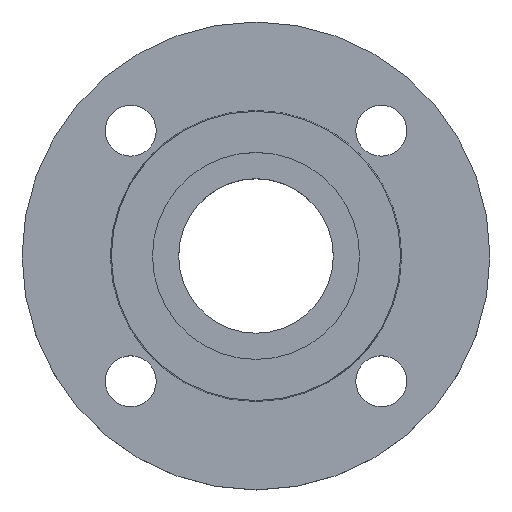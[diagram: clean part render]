
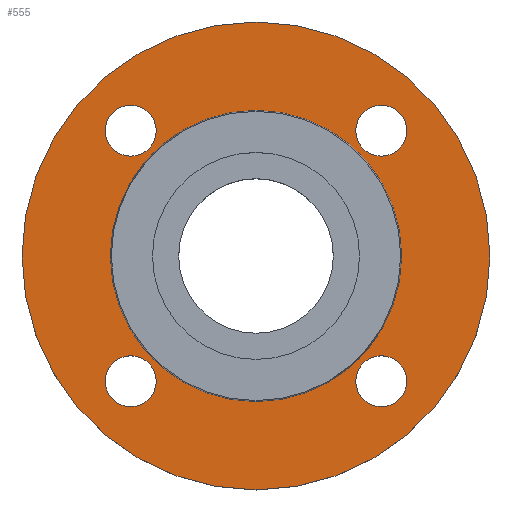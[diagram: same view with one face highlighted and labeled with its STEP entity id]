
A CAD part, top view. The second image highlights one B-rep face of the part: STEP entity #555.
In plain terms, the highlighted planar face has unit normal (0, 0, 1).
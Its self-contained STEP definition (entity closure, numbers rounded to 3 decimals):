
#15 = EDGE_CURVE ( 'NONE', #719, #695, #579, .T. ) ;
#18 = DIRECTION ( 'NONE',  ( -1., 0., 0. ) ) ;
#19 = DIRECTION ( 'NONE',  ( 0., 0., -1. ) ) ;
#20 = CARTESIAN_POINT ( 'NONE',  ( 0., 0., -2. ) ) ;
#29 = EDGE_CURVE ( 'NONE', #744, #854, #519, .T. ) ;
#35 = AXIS2_PLACEMENT_3D ( 'NONE', #572, #571, #568 ) ;
#36 = CIRCLE ( 'NONE', #35, 82.5 ) ;
#45 = DIRECTION ( 'NONE',  ( 0., 0., -1. ) ) ;
#53 = CIRCLE ( 'NONE', #542, 9. ) ;
#58 = CARTESIAN_POINT ( 'NONE',  ( -82.5, 0., -2. ) ) ;
#62 = CARTESIAN_POINT ( 'NONE',  ( 53.194, -44.194, -2. ) ) ;
#72 = CARTESIAN_POINT ( 'NONE',  ( -35.194, 44.194, -2. ) ) ;
#75 = EDGE_CURVE ( 'NONE', #695, #719, #53, .T. ) ;
#96 = DIRECTION ( 'NONE',  ( 1., 0., 0. ) ) ;
#97 = DIRECTION ( 'NONE',  ( 0., 0., 1. ) ) ;
#100 = CARTESIAN_POINT ( 'NONE',  ( 51.353, 0., -2. ) ) ;
#102 = PLANE ( 'NONE',  #286 ) ;
#104 = CARTESIAN_POINT ( 'NONE',  ( -53.194, 44.194, -2. ) ) ;
#107 = FACE_OUTER_BOUND ( 'NONE', #675, .T. ) ;
#108 = FACE_BOUND ( 'NONE', #704, .T. ) ;
#109 = CARTESIAN_POINT ( 'NONE',  ( 44.194, -44.194, -2. ) ) ;
#110 = DIRECTION ( 'NONE',  ( 0., 0., -1. ) ) ;
#111 = FACE_BOUND ( 'NONE', #703, .T. ) ;
#112 = DIRECTION ( 'NONE',  ( 1., 0., 0. ) ) ;
#116 = FACE_BOUND ( 'NONE', #700, .T. ) ;
#118 = FACE_BOUND ( 'NONE', #696, .T. ) ;
#119 = FACE_BOUND ( 'NONE', #671, .T. ) ;
#128 = AXIS2_PLACEMENT_3D ( 'NONE', #582, #580, #576 ) ;
#154 = EDGE_CURVE ( 'NONE', #746, #678, #184, .T. ) ;
#170 = EDGE_CURVE ( 'NONE', #827, #747, #171, .T. ) ;
#171 = CIRCLE ( 'NONE', #128, 9. ) ;
#175 = VERTEX_POINT ( 'NONE', #574 ) ;
#177 = EDGE_CURVE ( 'NONE', #678, #746, #36, .T. ) ;
#184 = CIRCLE ( 'NONE', #185, 82.5 ) ;
#185 = AXIS2_PLACEMENT_3D ( 'NONE', #605, #604, #600 ) ;
#218 = DIRECTION ( 'NONE',  ( 1., 0., 0. ) ) ;
#221 = DIRECTION ( 'NONE',  ( 0., 0., -1. ) ) ;
#225 = CARTESIAN_POINT ( 'NONE',  ( -44.194, -44.194, -2. ) ) ;
#248 = AXIS2_PLACEMENT_3D ( 'NONE', #109, #110, #112 ) ;
#249 = EDGE_CURVE ( 'NONE', #683, #667, #506, .T. ) ;
#254 = CIRCLE ( 'NONE', #277, 9. ) ;
#271 = AXIS2_PLACEMENT_3D ( 'NONE', #878, #45, #877 ) ;
#277 = AXIS2_PLACEMENT_3D ( 'NONE', #225, #221, #218 ) ;
#286 = AXIS2_PLACEMENT_3D ( 'NONE', #100, #97, #96 ) ;
#313 = CARTESIAN_POINT ( 'NONE',  ( 51.353, 0., -2. ) ) ;
#318 = CIRCLE ( 'NONE', #471, 51.353 ) ;
#322 = CIRCLE ( 'NONE', #271, 9. ) ;
#325 = CARTESIAN_POINT ( 'NONE',  ( 82.5, 0., -2. ) ) ;
#335 = CIRCLE ( 'NONE', #372, 9. ) ;
#338 = CARTESIAN_POINT ( 'NONE',  ( 53.194, 44.194, -2. ) ) ;
#343 = CIRCLE ( 'NONE', #248, 9. ) ;
#351 = CARTESIAN_POINT ( 'NONE',  ( 44.194, 44.194, -2. ) ) ;
#352 = DIRECTION ( 'NONE',  ( 0., 0., -1. ) ) ;
#353 = DIRECTION ( 'NONE',  ( 1., 0., 0. ) ) ;
#372 = AXIS2_PLACEMENT_3D ( 'NONE', #351, #352, #353 ) ;
#441 = CARTESIAN_POINT ( 'NONE',  ( 35.194, 44.194, -2. ) ) ;
#471 = AXIS2_PLACEMENT_3D ( 'NONE', #20, #19, #18 ) ;
#474 = CARTESIAN_POINT ( 'NONE',  ( 35.194, -44.194, -2. ) ) ;
#475 = AXIS2_PLACEMENT_3D ( 'NONE', #492, #490, #489 ) ;
#486 = EDGE_CURVE ( 'NONE', #175, #743, #254, .T. ) ;
#489 = DIRECTION ( 'NONE',  ( 1., 0., 0. ) ) ;
#490 = DIRECTION ( 'NONE',  ( 0., 0., -1. ) ) ;
#492 = CARTESIAN_POINT ( 'NONE',  ( 44.194, -44.194, -2. ) ) ;
#506 = CIRCLE ( 'NONE', #475, 9. ) ;
#511 = AXIS2_PLACEMENT_3D ( 'NONE', #661, #660, #659 ) ;
#519 = CIRCLE ( 'NONE', #511, 51.353 ) ;
#523 = CARTESIAN_POINT ( 'NONE',  ( -51.353, 0., -2. ) ) ;
#542 = AXIS2_PLACEMENT_3D ( 'NONE', #646, #645, #644 ) ;
#555 = ADVANCED_FACE ( 'NONE', ( #119, #118, #116, #111, #108, #107 ), #102, .T. ) ;
#561 = AXIS2_PLACEMENT_3D ( 'NONE', #665, #664, #663 ) ;
#568 = DIRECTION ( 'NONE',  ( -1., 0., 0. ) ) ;
#571 = DIRECTION ( 'NONE',  ( 0., 0., -1. ) ) ;
#572 = CARTESIAN_POINT ( 'NONE',  ( 0., 0., -2. ) ) ;
#574 = CARTESIAN_POINT ( 'NONE',  ( -35.194, -44.194, -2. ) ) ;
#576 = DIRECTION ( 'NONE',  ( 1., 0., 0. ) ) ;
#579 = CIRCLE ( 'NONE', #561, 9. ) ;
#580 = DIRECTION ( 'NONE',  ( 0., 0., -1. ) ) ;
#582 = CARTESIAN_POINT ( 'NONE',  ( 44.194, 44.194, -2. ) ) ;
#600 = DIRECTION ( 'NONE',  ( -1., 0., 0. ) ) ;
#604 = DIRECTION ( 'NONE',  ( 0., 0., -1. ) ) ;
#605 = CARTESIAN_POINT ( 'NONE',  ( 0., 0., -2. ) ) ;
#641 = EDGE_CURVE ( 'NONE', #854, #744, #318, .T. ) ;
#644 = DIRECTION ( 'NONE',  ( 1., 0., 0. ) ) ;
#645 = DIRECTION ( 'NONE',  ( 0., 0., -1. ) ) ;
#646 = CARTESIAN_POINT ( 'NONE',  ( -44.194, 44.194, -2. ) ) ;
#659 = DIRECTION ( 'NONE',  ( -1., 0., 0. ) ) ;
#660 = DIRECTION ( 'NONE',  ( 0., 0., -1. ) ) ;
#661 = CARTESIAN_POINT ( 'NONE',  ( 0., 0., -2. ) ) ;
#663 = DIRECTION ( 'NONE',  ( 1., 0., 0. ) ) ;
#664 = DIRECTION ( 'NONE',  ( 0., 0., -1. ) ) ;
#665 = CARTESIAN_POINT ( 'NONE',  ( -44.194, 44.194, -2. ) ) ;
#667 = VERTEX_POINT ( 'NONE', #474 ) ;
#668 = EDGE_CURVE ( 'NONE', #743, #175, #322, .T. ) ;
#671 = EDGE_LOOP ( 'NONE', ( #806, #807 ) ) ;
#675 = EDGE_LOOP ( 'NONE', ( #818, #819 ) ) ;
#678 = VERTEX_POINT ( 'NONE', #58 ) ;
#683 = VERTEX_POINT ( 'NONE', #62 ) ;
#695 = VERTEX_POINT ( 'NONE', #72 ) ;
#696 = EDGE_LOOP ( 'NONE', ( #808, #809 ) ) ;
#700 = EDGE_LOOP ( 'NONE', ( #810, #811 ) ) ;
#703 = EDGE_LOOP ( 'NONE', ( #814, #815 ) ) ;
#704 = EDGE_LOOP ( 'NONE', ( #816, #817 ) ) ;
#719 = VERTEX_POINT ( 'NONE', #104 ) ;
#721 = EDGE_CURVE ( 'NONE', #667, #683, #343, .T. ) ;
#743 = VERTEX_POINT ( 'NONE', #768 ) ;
#744 = VERTEX_POINT ( 'NONE', #313 ) ;
#746 = VERTEX_POINT ( 'NONE', #325 ) ;
#747 = VERTEX_POINT ( 'NONE', #338 ) ;
#753 = EDGE_CURVE ( 'NONE', #747, #827, #335, .T. ) ;
#768 = CARTESIAN_POINT ( 'NONE',  ( -53.194, -44.194, -2. ) ) ;
#806 = ORIENTED_EDGE ( 'NONE', *, *, #249, .T. ) ;
#807 = ORIENTED_EDGE ( 'NONE', *, *, #721, .T. ) ;
#808 = ORIENTED_EDGE ( 'NONE', *, *, #486, .T. ) ;
#809 = ORIENTED_EDGE ( 'NONE', *, *, #668, .T. ) ;
#810 = ORIENTED_EDGE ( 'NONE', *, *, #75, .T. ) ;
#811 = ORIENTED_EDGE ( 'NONE', *, *, #15, .T. ) ;
#814 = ORIENTED_EDGE ( 'NONE', *, *, #753, .T. ) ;
#815 = ORIENTED_EDGE ( 'NONE', *, *, #170, .T. ) ;
#816 = ORIENTED_EDGE ( 'NONE', *, *, #641, .T. ) ;
#817 = ORIENTED_EDGE ( 'NONE', *, *, #29, .T. ) ;
#818 = ORIENTED_EDGE ( 'NONE', *, *, #154, .F. ) ;
#819 = ORIENTED_EDGE ( 'NONE', *, *, #177, .F. ) ;
#827 = VERTEX_POINT ( 'NONE', #441 ) ;
#854 = VERTEX_POINT ( 'NONE', #523 ) ;
#877 = DIRECTION ( 'NONE',  ( 1., 0., 0. ) ) ;
#878 = CARTESIAN_POINT ( 'NONE',  ( -44.194, -44.194, -2. ) ) ;
